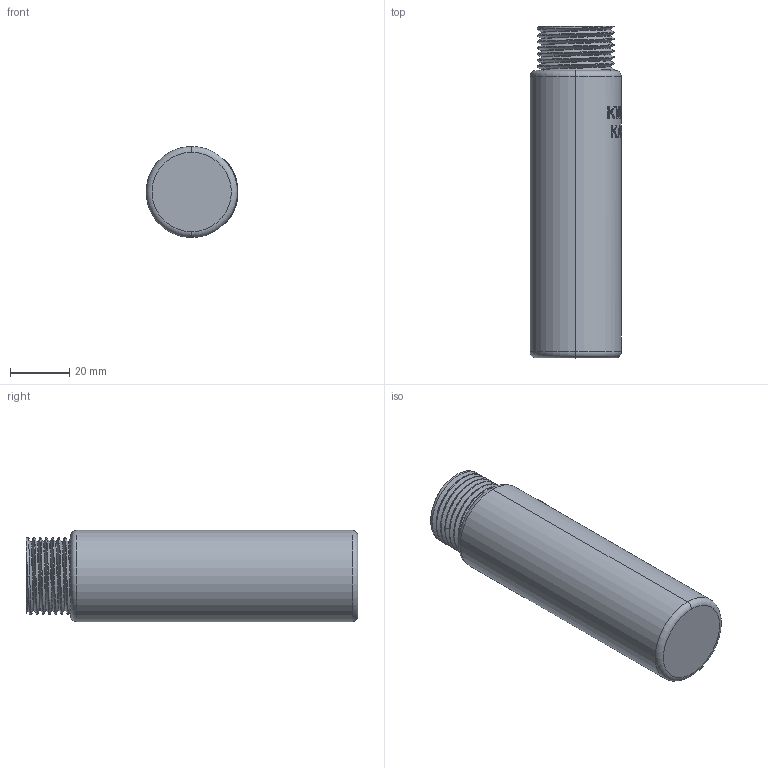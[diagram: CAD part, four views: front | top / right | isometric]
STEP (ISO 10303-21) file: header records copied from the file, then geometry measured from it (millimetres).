
FILE_DESCRIPTION((''),'2;1');
FILE_NAME('ASM0001_ASM','2025-12-30T08:59:03',('28740194'),(''),'CREO PARAMETRIC BY PTC INC, 2024063','CREO PARAMETRIC BY PTC INC, 2024063','');
FILE_SCHEMA(('CONFIG_CONTROL_DESIGN'));
Length unit declared in the file: millimetre
Products named in the file (3): KWD300-1; 26X3-4; ASM0001_ASM
Assembly tree (2 placements, depth 2):
  ASM0001_ASM
    KWD300-1
    26X3-4
Bounding box: 31.01 x 112.05 x 30.79 mm (x, y, z)
Volume: 7193.2 mm3; surface area: 13751.3 mm2
Topology: 1 solids, 5 shells, 380 faces, 1075 edges, 715 vertices
Faces by surface type: bspline 339, cylinder 33, torus 4, plane 4
Entity records: 19055 total; most frequent: CARTESIAN_POINT 11722, ORIENTED_EDGE 2138, EDGE_CURVE 1081, B_SPLINE_CURVE_WITH_KNOTS 868, VERTEX_POINT 722, DIRECTION 423, EDGE_LOOP 394, FACE_OUTER_BOUND 379
